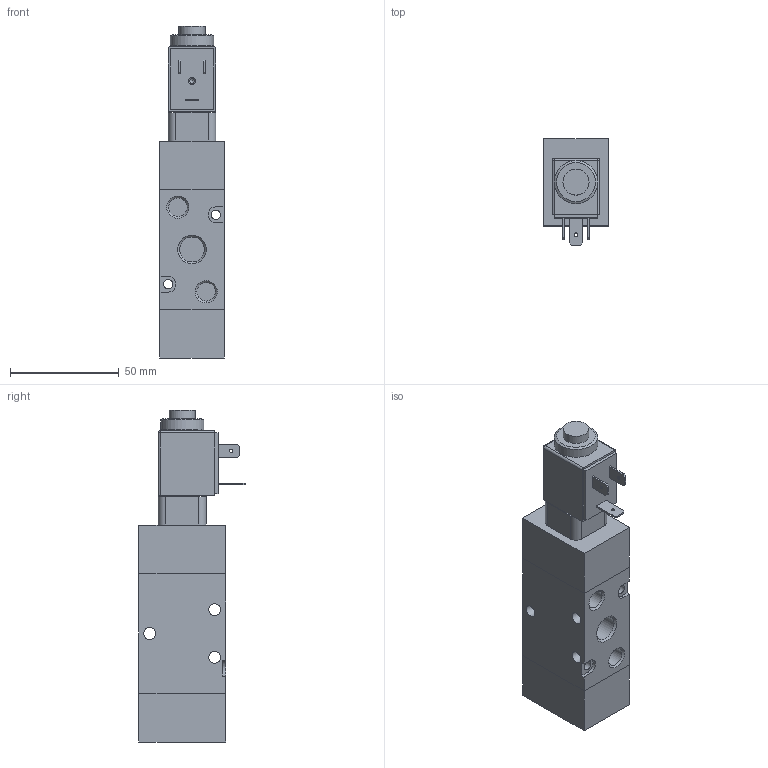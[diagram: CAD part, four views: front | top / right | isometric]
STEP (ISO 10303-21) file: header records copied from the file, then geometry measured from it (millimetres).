
FILE_DESCRIPTION(/* description */ (''),/* implementation_level */ '2;1');
FILE_NAME(/* name */ 'I:\Area Tecnica\Disegni\VARIE-3D\Componenti\T400\T424\T424_32_0_12_E_B#.stp',/* time_stamp */ '2015-09-23T13:49:01+02:00',/* author */ ('maniean1'),/* organization */ ('Pneumax S.p.A.'),/* preprocessor_version */ 'ST-DEVELOPER v15.2',/* originating_system */ 'Autodesk Inventor 2014',/* authorisation */ '');
FILE_SCHEMA (('AUTOMOTIVE_DESIGN { 1 0 10303 214 3 1 1 }'));
Length unit declared in the file: millimetre
Products named in the file (3): T424_32_0_12_E_M2; MB; T424_32_0_12_E_B#
Bounding box: 29.5 x 49 x 153 mm (x, y, z)
Volume: 137037.6 mm3; surface area: 33489 mm2
Topology: 5 solids, 5 shells, 125 faces, 275 edges, 178 vertices
Faces by surface type: plane 78, cylinder 37, cone 8, sphere 2
Full cylindrical faces by diameter (mm): 1.5 x2, 1.6 x1, 2.156 x1, 4.25 x2, 5.5 x3, 7.4 x1, 8 x1, 8.2 x2, 8.566 x2, 9.8 x1, 10.1 x1, 10.2 x1, 11.445 x3, 12 x1, 13 x1, 13.5 x1, 16.2 x1, 20 x1
Entity records: 3424 total; most frequent: DIRECTION 577, CARTESIAN_POINT 541, ORIENTED_EDGE 472, EDGE_CURVE 236, AXIS2_PLACEMENT_3D 211, EDGE_LOOP 197, VERTEX_POINT 175, LINE 155
